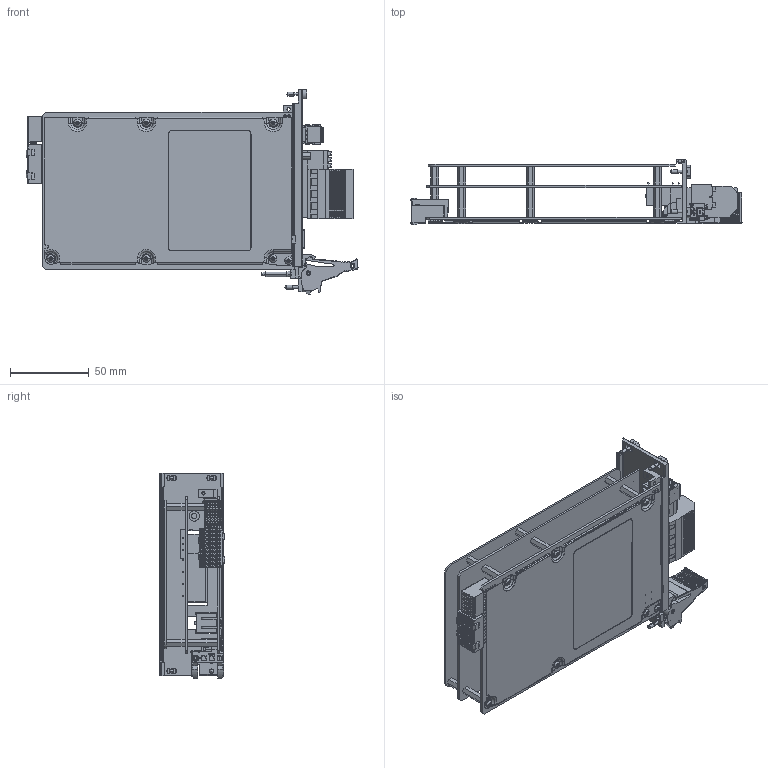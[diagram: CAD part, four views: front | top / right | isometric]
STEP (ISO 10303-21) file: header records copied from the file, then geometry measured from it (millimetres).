
FILE_DESCRIPTION((''),'2;1');
FILE_NAME('CU_PXIE-4150_788176-01','2024-09-27T15:15:28',('dkendric'),(''),'CREO PARAMETRIC BY PTC INC, 2021063','CREO PARAMETRIC BY PTC INC, 2021063','');
FILE_SCHEMA(('AUTOMOTIVE_DESIGN { 1 0 10303 214 1 1 1 1 }'));
Products named in the file (1): CU_PXIE-4150_788176-01
Bounding box: 210.74 x 41.34 x 130.5 mm (x, y, z)
Volume: 139425.9 mm3; surface area: 168897.1 mm2
Topology: 1 solids, 1 shells, 7506 faces, 19521 edges, 12369 vertices
Faces by surface type: plane 5096, cylinder 1543, bspline 392, torus 189, cone 162, sphere 76, extrusion 48
Entity records: 330707 total; most frequent: CARTESIAN_POINT 96700, ORIENTED_EDGE 38886, DIRECTION 34952, EDGE_CURVE 19443, VECTOR 14647, LINE 14599, VERTEX_POINT 12369, AXIS2_PLACEMENT_3D 10151
